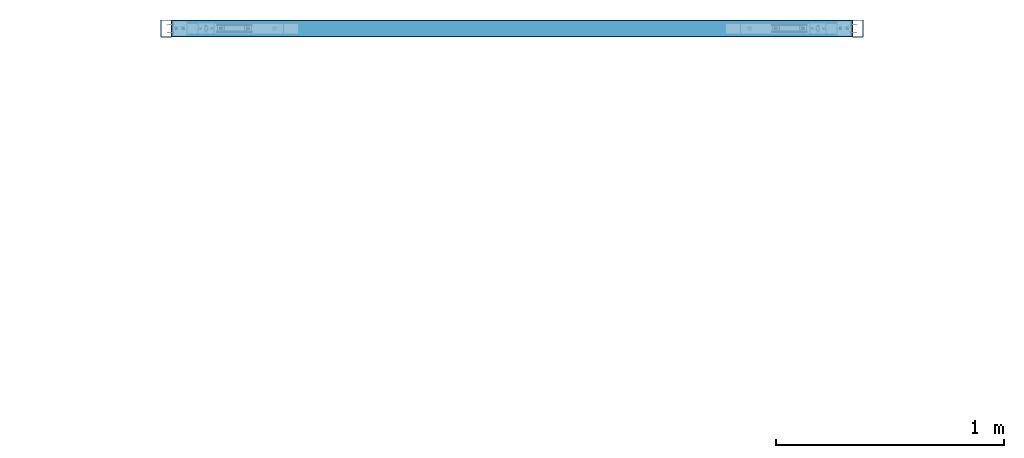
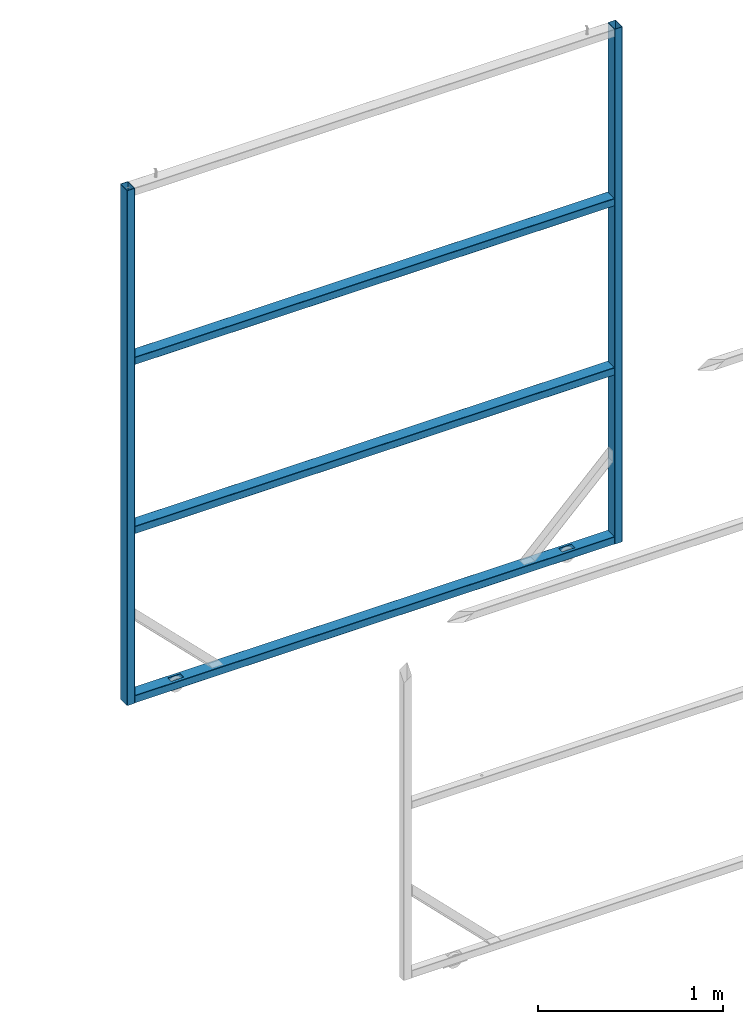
# One storey, part 16 of 91: 5 discrete accessories, 1 element without a shape of its own.
"""IFC2X3 building model written with IfcOpenShell, lengths in millimetres."""

from ifc_helpers import new_model, si_unit, frame, origin_with_axes, origin_2d_with_axis, place, context, subcontext, project, spatial, polyline, hollow_rectangle, outline, extrude, boolean, material, type_object, element, aggregate, save


model = new_model("IFC2X3")

# Units and contexts
model_context = context("Model", 3, precision=1e-05, world=origin_with_axes())
body_context = subcontext(model_context, "Body", "Model", "MODEL_VIEW")
ifc_project = project(units=[si_unit("LENGTHUNIT", "METRE", prefix="MILLI"), si_unit("AREAUNIT", "SQUARE_METRE"), si_unit("VOLUMEUNIT", "CUBIC_METRE"), si_unit("MASSUNIT", "GRAM", prefix="KILO"), si_unit("TIMEUNIT", "SECOND"), si_unit("PLANEANGLEUNIT", "RADIAN"), si_unit("SOLIDANGLEUNIT", "STERADIAN"), si_unit("THERMODYNAMICTEMPERATUREUNIT", "DEGREE_CELSIUS"), si_unit("LUMINOUSINTENSITYUNIT", "LUMEN")], contexts=[model_context])

# Site, building, storey
site_placement = place(None, origin_with_axes())
site = spatial("IfcSite", under=ifc_project, at=site_placement, Name="Undefined", CompositionType="ELEMENT")
building_placement = place(site_placement, origin_with_axes())
building = spatial("IfcBuilding", under=site, at=building_placement, Name="Undefined", CompositionType="ELEMENT")
storey_placement = place(building_placement, origin_with_axes())
storey = spatial("IfcBuildingStorey", under=building, at=storey_placement, Name="Undefined", CompositionType="ELEMENT", Elevation=0.0)

# Assembly, discrete accessories
assembly_placement = place(storey_placement, origin_with_axes())
assembly = element("IfcElementAssembly", 1, at=assembly_placement, inside=storey, Name="Sliding Door Beam", AssemblyPlace="NOTDEFINED", PredefinedType="RIGID_FRAME")
ifc_material_1 = material(Name="STEEL/300")
discrete_accessory_type_1 = type_object("IfcDiscreteAccessoryType", Name="Sliding Door Post")
discrete_accessory_1_placement = place(assembly_placement, frame((-110576.29, 93380.0, -17.0), z_axis=(0.0, 0.0, 1.0), x_axis=(0.0, 1.0, 0.0)))
discrete_accessory_1 = element("IfcDiscreteAccessory", 2, at=discrete_accessory_1_placement, type_object=discrete_accessory_type_1, material=ifc_material_1, Name="Sliding Door Post", ObjectType="RHS:75x50x2.0", context=body_context, shape_type="SweptSolid", body=[
    extrude(hollow_rectangle(XDim=50.0, YDim=75.0, WallThickness=2.0, InnerFilletRadius=2.0, OuterFilletRadius=4.0, at=origin_2d_with_axis()), frame((0.0, 0.0, 3393.0), z_axis=(0.0, 0.0, -1.0), x_axis=(0.0, 1.0, 0.0)), (0.0, 0.0, 1.0), 3393.0),
])
discrete_accessory_2_placement = place(assembly_placement, frame((-113613.79, 93380.0, -17.0), z_axis=(0.0, 0.0, 1.0), x_axis=(0.0, 1.0, 0.0)))
discrete_accessory_2 = element("IfcDiscreteAccessory", 3, at=discrete_accessory_2_placement, type_object=discrete_accessory_type_1, material=ifc_material_1, Name="Sliding Door Post", ObjectType="RHS:75x50x2.0", context=body_context, shape_type="SweptSolid", body=[
    extrude(hollow_rectangle(XDim=50.0, YDim=75.0, WallThickness=2.0, InnerFilletRadius=2.0, OuterFilletRadius=4.0, at=origin_2d_with_axis()), frame((0.0, 0.0, 3393.0), z_axis=(0.0, 0.0, -1.0), x_axis=(0.0, 1.0, 0.0)), (0.0, 0.0, 1.0), 3393.0),
])
ifc_material_2 = material(Name="STEEL/300PLUS")
discrete_accessory_type_2 = type_object("IfcDiscreteAccessoryType", Name="Sliding Door Beam")
discrete_accessory_3_placement = place(assembly_placement, frame((-110601.29, 93380.0, 2236.66333333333), z_axis=(0.0, -1.0, 0.0), x_axis=(-1.0, 0.0, 0.0)))
discrete_accessory_3 = element("IfcDiscreteAccessory", 4, at=discrete_accessory_3_placement, type_object=discrete_accessory_type_2, material=ifc_material_2, Name="Sliding Door Beam", ObjectType="RHS:75x50x2.0", context=body_context, shape_type="SweptSolid", body=[
    extrude(hollow_rectangle(XDim=50.0, YDim=75.0, WallThickness=2.0, InnerFilletRadius=2.0, OuterFilletRadius=4.0, at=origin_2d_with_axis()), frame((2987.5, 0.0, 0.0), z_axis=(-1.0, 0.0, 0.0), x_axis=(0.0, -1.0, 0.0)), (0.0, 0.0, 1.0), 2987.5),
])
discrete_accessory_4_placement = place(assembly_placement, frame((-110601.29, 93380.0, 1122.33666666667), z_axis=(0.0, -1.0, 0.0), x_axis=(-1.0, 0.0, 0.0)))
discrete_accessory_4 = element("IfcDiscreteAccessory", 5, at=discrete_accessory_4_placement, type_object=discrete_accessory_type_2, material=ifc_material_2, Name="Sliding Door Beam", ObjectType="RHS:75x50x2.0", context=body_context, shape_type="SweptSolid", body=[
    extrude(hollow_rectangle(XDim=50.0, YDim=75.0, WallThickness=2.0, InnerFilletRadius=2.0, OuterFilletRadius=4.0, at=origin_2d_with_axis()), frame((2987.5, 0.0, 0.0), z_axis=(-1.0, 0.0, 0.0), x_axis=(0.0, -1.0, 0.0)), (0.0, 0.0, 1.0), 2987.5),
])
discrete_accessory_5_placement = place(assembly_placement, frame((-110601.29, 93380.0, 8.0), z_axis=(0.0, -1.0, 0.0), x_axis=(-1.0, 0.0, 0.0)))
discrete_accessory_5 = element("IfcDiscreteAccessory", 6, at=discrete_accessory_5_placement, type_object=discrete_accessory_type_2, material=ifc_material_2, Name="Sliding Door Beam", ObjectType="RHS:75x50x2.0", context=body_context, shape_type="CSG", body=[
    boolean("DIFFERENCE", boolean("DIFFERENCE", boolean("DIFFERENCE", boolean("DIFFERENCE", extrude(hollow_rectangle(XDim=50.0, YDim=75.0, WallThickness=2.0, InnerFilletRadius=2.0, OuterFilletRadius=4.0, at=origin_2d_with_axis()), frame((2987.5, 0.0, 0.0), z_axis=(-1.0, 0.0, 0.0), x_axis=(0.0, -1.0, 0.0)), (0.0, 0.0, 1.0), 2987.5), extrude(outline(polyline([(0.0, 0.0), (38.0, 0.0), (38.0, 100.0), (0.0, 100.0), (0.0, 0.0)])), frame((224.99875659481, 35.5, 19.0), z_axis=(0.0, -1.0, 0.0), x_axis=(0.0, 0.0, -1.0)), (0.0, 0.0, 1.0), 25.0)), extrude(outline(polyline([(0.0, 0.0), (38.0, 0.0), (38.0, 80.0), (0.0, 80.0), (0.0, 0.0)])), frame((234.99875659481, -12.5, 19.0), z_axis=(0.0, -1.0, 0.0), x_axis=(0.0, 0.0, -1.0)), (0.0, 0.0, 1.0), 25.0)), extrude(outline(polyline([(0.0, 0.0), (38.0, 0.0), (38.0, 100.0), (0.0, 100.0), (0.0, 0.0)])), frame((2662.49875659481, 35.5, 19.0), z_axis=(0.0, -1.0, 0.0), x_axis=(0.0, 0.0, -1.0)), (0.0, 0.0, 1.0), 25.0)), extrude(outline(polyline([(0.0, 0.0), (38.0, 0.0), (38.0, 80.0), (0.0, 80.0), (0.0, 0.0)])), frame((2672.49875659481, -12.5, 19.0), z_axis=(0.0, -1.0, 0.0), x_axis=(0.0, 0.0, -1.0)), (0.0, 0.0, 1.0), 25.0)),
])
aggregate(assembly, [discrete_accessory_1, discrete_accessory_2, discrete_accessory_3, discrete_accessory_4, discrete_accessory_5])

save(model, "model.ifc")
